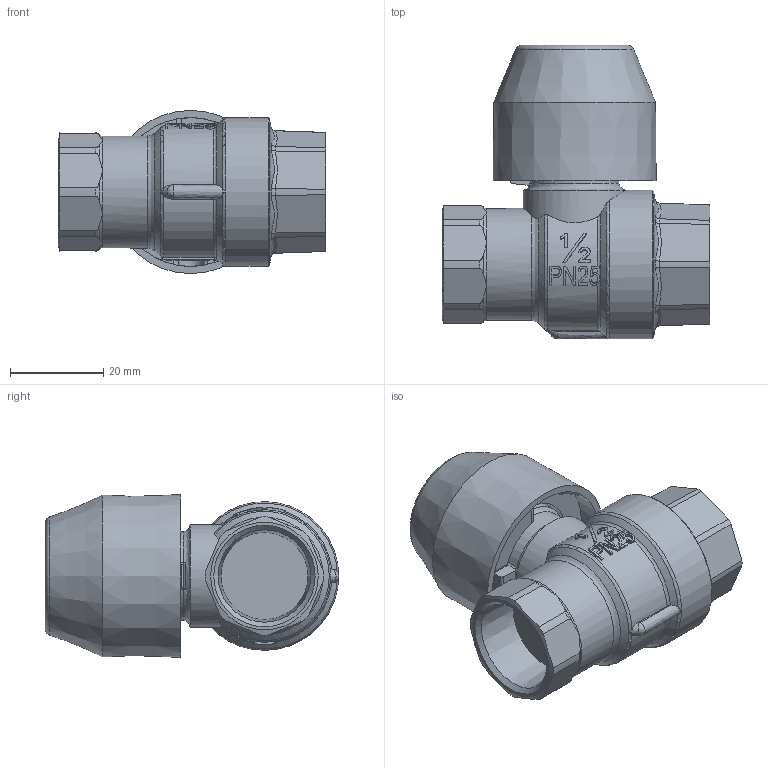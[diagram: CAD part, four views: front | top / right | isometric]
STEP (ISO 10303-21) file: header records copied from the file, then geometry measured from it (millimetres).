
FILE_DESCRIPTION((''),'2;1');
FILE_NAME('P:\Fastrack\53972_CRANE 3D\Ball Valves\Workplace\Crane Ball Valves\D171LS_1-2in\D171LS_1-2in.stp','2011-02-14T14:43:32',('btaylor'),(''),'Autodesk Inventor 2008','Autodesk Inventor 2008','');
FILE_SCHEMA(('AUTOMOTIVE_DESIGN { 1 0 10303 214 1 1 1 1 }'));
Length unit declared in the file: millimetre
Products named in the file (1): D171LS_1-2in
Bounding box: 57.2 x 62.8 x 34.9 mm (x, y, z)
Volume: 46939.8 mm3; surface area: 17450.6 mm2
Topology: 1 solids, 1 shells, 493 faces, 1323 edges, 844 vertices
Faces by surface type: plane 195, bspline 132, cylinder 101, cone 46, torus 19
Full cylindrical faces by diameter (mm): 9 x1, 11.8 x1, 16 x1, 18 x1, 20.5 x1, 21.5 x1, 22 x2, 24 x1, 31.8 x1
Entity records: 38107 total; most frequent: CARTESIAN_POINT 26708, ORIENTED_EDGE 2558, DIRECTION 1844, EDGE_CURVE 1279, VERTEX_POINT 833, AXIS2_PLACEMENT_3D 679, EDGE_LOOP 552, FACE_OUTER_BOUND 493
